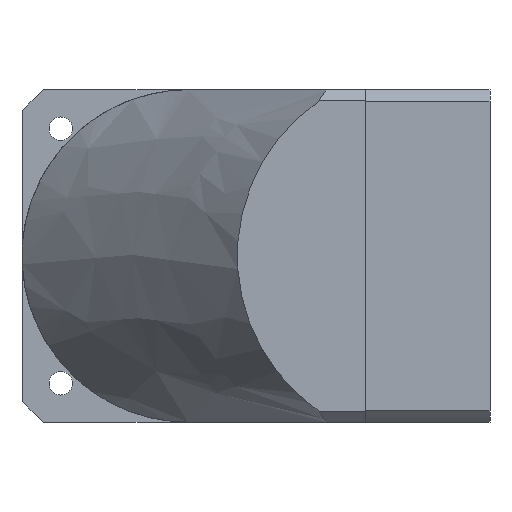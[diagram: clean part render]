
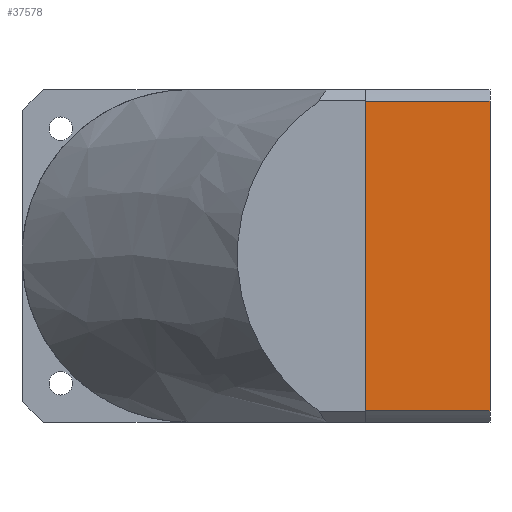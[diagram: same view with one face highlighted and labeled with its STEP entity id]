
A CAD part, front view. The second image highlights one B-rep face of the part: STEP entity #37578.
In plain terms, the highlighted planar face has unit normal (0, -1, 0).
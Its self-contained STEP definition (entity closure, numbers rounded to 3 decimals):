
#2034 = VERTEX_POINT ( 'NONE', #8166 ) ;
#5495 = ORIENTED_EDGE ( 'NONE', *, *, #29328, .T. ) ;
#7379 = DIRECTION ( 'NONE',  ( 1., 0., 0. ) ) ;
#8166 = CARTESIAN_POINT ( 'NONE',  ( -55.893, -60., 0. ) ) ;
#9269 = VECTOR ( 'NONE', #24099, 1000. ) ;
#12123 = ORIENTED_EDGE ( 'NONE', *, *, #16644, .T. ) ;
#12335 = VERTEX_POINT ( 'NONE', #25189 ) ;
#13162 = FACE_OUTER_BOUND ( 'NONE', #43494, .T. ) ;
#14592 = CARTESIAN_POINT ( 'NONE',  ( 0., -60., -45. ) ) ;
#16301 = PLANE ( 'NONE',  #30333 ) ;
#16644 = EDGE_CURVE ( 'NONE', #26685, #12335, #16731, .T. ) ;
#16731 = LINE ( 'NONE', #14592, #25111 ) ;
#19891 = DIRECTION ( 'NONE',  ( 0., -1., 0. ) ) ;
#20512 = CARTESIAN_POINT ( 'NONE',  ( -55.893, -60., -45. ) ) ;
#21114 = CARTESIAN_POINT ( 'NONE',  ( 55.893, -60., 0. ) ) ;
#23559 = DIRECTION ( 'NONE',  ( -1., 0., 0. ) ) ;
#24099 = DIRECTION ( 'NONE',  ( 0., 0., -1. ) ) ;
#25111 = VECTOR ( 'NONE', #7379, 1000. ) ;
#25189 = CARTESIAN_POINT ( 'NONE',  ( 55.893, -60., -45. ) ) ;
#26187 = ORIENTED_EDGE ( 'NONE', *, *, #28647, .F. ) ;
#26685 = VERTEX_POINT ( 'NONE', #36909 ) ;
#27206 = EDGE_CURVE ( 'NONE', #2034, #26685, #28240, .T. ) ;
#28240 = LINE ( 'NONE', #20512, #9269 ) ;
#28647 = EDGE_CURVE ( 'NONE', #33329, #12335, #42634, .T. ) ;
#29328 = EDGE_CURVE ( 'NONE', #33329, #2034, #35337, .T. ) ;
#30333 = AXIS2_PLACEMENT_3D ( 'NONE', #44612, #19891, #44761 ) ;
#33172 = VECTOR ( 'NONE', #46159, 1000. ) ;
#33329 = VERTEX_POINT ( 'NONE', #43750 ) ;
#35337 = LINE ( 'NONE', #41246, #36481 ) ;
#35736 = ORIENTED_EDGE ( 'NONE', *, *, #27206, .T. ) ;
#36481 = VECTOR ( 'NONE', #23559, 1000. ) ;
#36909 = CARTESIAN_POINT ( 'NONE',  ( -55.893, -60., -45. ) ) ;
#37578 = ADVANCED_FACE ( 'NONE', ( #13162 ), #16301, .T. ) ;
#41246 = CARTESIAN_POINT ( 'NONE',  ( -60., -60., 0. ) ) ;
#42634 = LINE ( 'NONE', #21114, #33172 ) ;
#43494 = EDGE_LOOP ( 'NONE', ( #35736, #12123, #26187, #5495 ) ) ;
#43750 = CARTESIAN_POINT ( 'NONE',  ( 55.893, -60., 0. ) ) ;
#44612 = CARTESIAN_POINT ( 'NONE',  ( -60., -60., -45. ) ) ;
#44761 = DIRECTION ( 'NONE',  ( 0., 0., -1. ) ) ;
#46159 = DIRECTION ( 'NONE',  ( 0., 0., -1. ) ) ;
